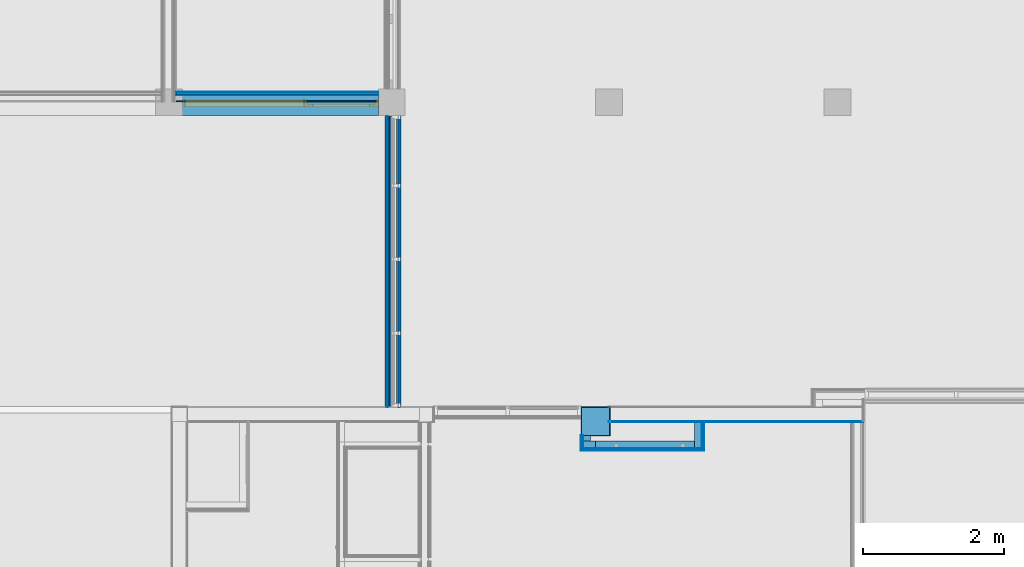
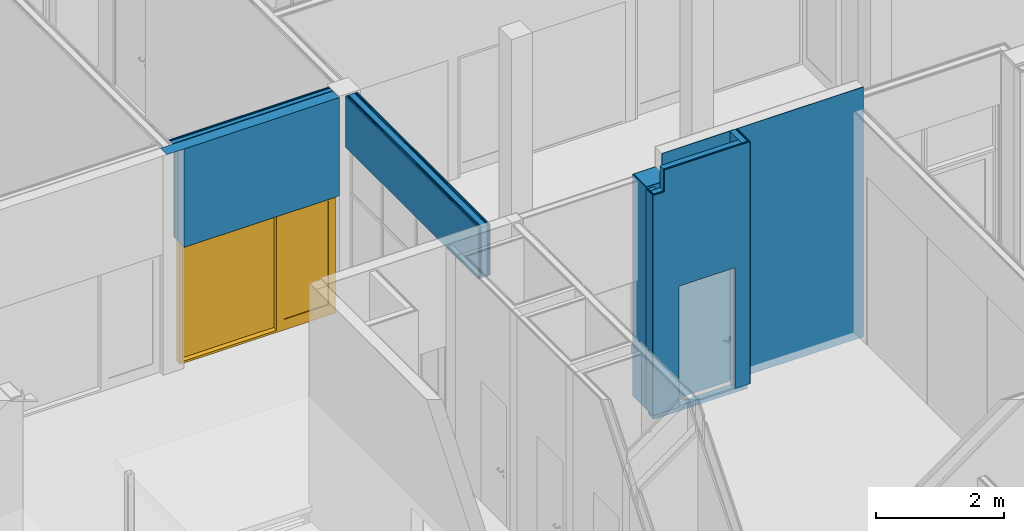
# One storey, part 210 of 260: 31 building element parts, 1 door, 2 openings, 7 elements without a shape of their own.
"""IFC2X3 building model written with IfcOpenShell, lengths in millimetres."""

from ifc_helpers import new_model, entity, si_unit, converted_unit, derived_unit, money_unit, direction, frame, origin_with_axes, place, context, subcontext, project, spatial, open_shell, faceted_brep, surface_model, material, type_object, element, fill, aggregate, save


model = new_model("IFC2X3")

# Units and contexts
model_context = context("Model", 3, precision=0.01, world=origin_with_axes(), true_north=direction((0.0, 1.0)))
body_context = subcontext(model_context, "Body", "Model", "MODEL_VIEW")
ifc_project = project(units=[si_unit("LENGTHUNIT", "METRE", prefix="MILLI"), si_unit("AREAUNIT", "SQUARE_METRE"), si_unit("VOLUMEUNIT", "CUBIC_METRE"), converted_unit("PLANEANGLEUNIT", "DEGREE", entity("IfcPlaneAngleMeasure", 0.0174532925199), si_unit("PLANEANGLEUNIT", "RADIAN"), dimensions=[0, 0, 0, 0, 0, 0, 0]), money_unit("EUR"), converted_unit("TIMEUNIT", "Year", entity("IfcTimeMeasure", 31556926.0), si_unit("TIMEUNIT", "SECOND"), dimensions=[0, 0, 1, 0, 0, 0, 0]), si_unit("MASSUNIT", "GRAM", prefix="KILO"), si_unit("THERMODYNAMICTEMPERATUREUNIT", "DEGREE_CELSIUS"), si_unit("LUMINOUSINTENSITYUNIT", "LUMEN"), si_unit("ENERGYUNIT", "JOULE", prefix="MEGA"), derived_unit("THERMALCONDUCTANCEUNIT", [(si_unit("POWERUNIT", "WATT"), 1), (si_unit("LENGTHUNIT", "METRE"), -1), (si_unit("THERMODYNAMICTEMPERATUREUNIT", "KELVIN"), -1)]), derived_unit("SPECIFICHEATCAPACITYUNIT", [(si_unit("ENERGYUNIT", "JOULE"), 1), (si_unit("MASSUNIT", "GRAM", prefix="KILO"), -1), (si_unit("THERMODYNAMICTEMPERATUREUNIT", "KELVIN"), -1)]), derived_unit("MASSDENSITYUNIT", [(si_unit("MASSUNIT", "GRAM", prefix="KILO"), 1), (si_unit("VOLUMEUNIT", "CUBIC_METRE"), -1)])], contexts=[model_context])

# Site, building, storey
site_placement = place(None, origin_with_axes())
site = spatial("IfcSite", under=ifc_project, at=site_placement, Name="Kolde pst 67a", CompositionType="ELEMENT")
building_placement = place(site_placement, origin_with_axes())
building = spatial("IfcBuilding", under=site, at=building_placement, Name="Riigigümnaasium", CompositionType="ELEMENT")
storey_placement = place(building_placement, origin_with_axes())
storey = spatial("IfcBuildingStorey", under=building, at=storey_placement, Name="1. korrus", CompositionType="ELEMENT", Elevation=0.0)

# Door
door_style = type_object("IfcDoorStyle", Name="Door with Sidelight on Side 2 25", ConstructionType="NOTDEFINED", OperationType="SINGLE_SWING_LEFT", ParameterTakesPrecedence=False, Sizeable=False)
wall_4_placement = place(storey_placement, frame((63760.0301526, 28589.999656, 0.0), z_axis=(0.0, 0.0, 1.0), x_axis=(1.0, 0.0, 0.0)))
opening_1_placement = place(wall_4_placement, frame((1705.00000252, 0.0, 0.0), z_axis=(0.0, 0.0, 1.0), x_axis=(1.0, 0.0, 0.0)))
door_placement = place(opening_1_placement, frame((1395.0, 0.0, 0.0), z_axis=(0.0, 0.0, 1.0), x_axis=(-1.0, 0.0, 0.0)))
door = element("IfcDoor", 1, at=door_placement, inside=storey, type_object=door_style, Name="Siseuks", ObjectType="DOOR", OverallHeight=2300.0, OverallWidth=2790.0, context=body_context, shape_type="SurfaceModel", body=[
    faceted_brep([(1056.0, -125.0, 2260.0), (1028.0, -125.0, 2260.0), (1028.0, -125.0, 2272.0), (28.0, -125.0, 2272.0), (28.0, -125.0, 2260.0), (0.0, -125.0, 2260.0), (0.0, -125.0, 2300.0), (2790.0, -125.0, 2300.0), (2790.0, -125.0, 2260.0), (2750.0, -125.0, 2260.0), (40.0, -240.0, 2260.0), (40.0, -165.0, 2260.0), (1028.0, -165.0, 2260.0), (1056.0, -240.0, 2260.0), (1016.0, -240.0, 2260.0), (1028.0, -165.0, 2272.0), (28.0, -165.0, 2272.0), (28.0, -165.0, 2260.0), (0.0, -240.0, 2260.0), (0.0, -240.0, 2300.0), (2790.0, -240.0, 2300.0), (2790.0, -240.0, 2260.0), (2750.0, -240.0, 2260.0)], [[[0, 1, 2, 3, 4, 5, 6, 7, 8, 9]], [[10, 11, 12, 1, 0, 13, 14]], [[15, 2, 1, 12]], [[16, 3, 2, 15]], [[17, 4, 3, 16]], [[5, 4, 17, 11, 10, 18]], [[18, 19, 6, 5]], [[19, 20, 7, 6]], [[20, 21, 8, 7]], [[21, 22, 9, 8]], [[22, 13, 0, 9]], [[12, 11, 17, 16, 15]], [[19, 18, 10, 14, 13, 22, 21, 20]]]),
    faceted_brep([(2750.0, -125.0, 0.0), (2790.0, -125.0, 0.0), (2790.0, -240.0, 0.0), (2750.0, -240.0, 0.0), (2790.0, -125.0, 2260.0), (2750.0, -125.0, 40.0), (2750.0, -125.0, 2260.0), (2790.0, -240.0, 2260.0), (2750.0, -240.0, 2260.0), (2750.0, -240.0, 40.0)], [[[0, 1, 2, 3]], [[4, 1, 0, 5, 6]], [[1, 4, 7, 2]], [[3, 2, 7, 8, 9]], [[5, 0, 3, 9]], [[6, 5, 9, 8]], [[4, 6, 8, 7]]]),
    faceted_brep([(40.0, -165.0, 2260.0), (28.0, -165.0, 2260.0), (28.0, -125.0, 2260.0), (0.0, -125.0, 2260.0), (0.0, -240.0, 2260.0), (40.0, -240.0, 2260.0), (40.0, -165.0, 0.0), (28.0, -165.0, 0.0), (28.0, -125.0, 0.0), (0.0, -125.0, 0.0), (0.0, -240.0, 0.0), (40.0, -240.0, 0.0)], [[[0, 1, 2, 3, 4, 5]], [[1, 0, 6, 7]], [[2, 1, 7, 8]], [[2, 8, 9, 3]], [[4, 3, 9, 10]], [[5, 4, 10, 11]], [[6, 0, 5, 11]], [[8, 7, 6, 11, 10, 9]]]),
    faceted_brep([(1016.0, -165.0, 0.0), (1016.0, -240.0, 0.0), (1016.0, -240.0, 2260.0), (1016.0, -165.0, 2260.0), (1028.0, -165.0, 0.0), (1028.0, -125.0, 0.0), (1056.0, -125.0, 0.0), (1056.0, -240.0, 0.0), (1056.0, -240.0, 40.0), (1056.0, -240.0, 2260.0), (1028.0, -165.0, 2260.0), (1056.0, -125.0, 2260.0), (1028.0, -125.0, 2260.0), (1056.0, -125.0, 40.0)], [[[0, 1, 2, 3]], [[4, 5, 6, 7, 1, 0]], [[7, 8, 9, 2, 1]], [[10, 3, 2, 9, 11, 12]], [[10, 4, 0, 3]], [[12, 5, 4, 10]], [[12, 11, 13, 6, 5]], [[6, 13, 8, 7]], [[13, 11, 9, 8]]]),
    faceted_brep([(2750.0, -125.0, 40.0), (2750.0, -240.0, 40.0), (2750.0, -240.0, 0.0), (2750.0, -125.0, 0.0), (1056.0, -125.0, 40.0), (1056.0, -240.0, 40.0), (1056.0, -240.0, 0.0), (1056.0, -125.0, 0.0)], [[[0, 1, 2, 3]], [[4, 5, 1, 0]], [[1, 5, 6, 2]], [[3, 2, 6, 7]], [[0, 3, 7, 4]], [[7, 6, 5, 4]]]),
    faceted_brep([(28.0, -125.0, 200.0), (128.0, -125.0, 200.0), (128.0, -165.0, 200.0), (28.0, -165.0, 200.0), (28.0, -125.0, 2172.0), (128.0, -125.0, 2172.0), (128.0, -165.0, 2172.0), (28.0, -165.0, 2172.0)], [[[0, 1, 2, 3]], [[0, 4, 5, 1]], [[1, 5, 6, 2]], [[3, 2, 6, 7]], [[4, 0, 3, 7]], [[5, 4, 7, 6]]]),
    faceted_brep([(1028.0, -125.0, 200.0), (1028.0, -125.0, 2172.0), (1028.0, -165.0, 2172.0), (1028.0, -165.0, 200.0), (928.0, -125.0, 200.0), (928.0, -125.0, 2172.0), (928.0, -165.0, 2172.0), (928.0, -165.0, 200.0)], [[[0, 1, 2, 3]], [[0, 4, 5, 1]], [[1, 5, 6, 2]], [[3, 2, 6, 7]], [[4, 0, 3, 7]], [[5, 4, 7, 6]]]),
    faceted_brep([(28.0, -125.0, 0.0), (1028.0, -125.0, 0.0), (1028.0, -165.0, 0.0), (28.0, -165.0, 0.0), (28.0, -125.0, 200.0), (128.0, -125.0, 200.0), (928.0, -125.0, 200.0), (1028.0, -125.0, 200.0), (1028.0, -165.0, 200.0), (928.0, -165.0, 200.0), (128.0, -165.0, 200.0), (28.0, -165.0, 200.0)], [[[0, 1, 2, 3]], [[0, 4, 5, 6, 7, 1]], [[1, 7, 8, 2]], [[3, 2, 8, 9, 10, 11]], [[4, 0, 3, 11]], [[5, 4, 11, 10]], [[6, 5, 10, 9]], [[7, 6, 9, 8]]]),
    faceted_brep([(28.0, -125.0, 2272.0), (28.0, -125.0, 2172.0), (28.0, -165.0, 2172.0), (28.0, -165.0, 2272.0), (1028.0, -125.0, 2272.0), (1028.0, -125.0, 2172.0), (928.0, -125.0, 2172.0), (128.0, -125.0, 2172.0), (128.0, -165.0, 2172.0), (928.0, -165.0, 2172.0), (1028.0, -165.0, 2172.0), (1028.0, -165.0, 2272.0)], [[[0, 1, 2, 3]], [[0, 4, 5, 6, 7, 1]], [[1, 7, 8, 2]], [[3, 2, 8, 9, 10, 11]], [[4, 0, 3, 11]], [[5, 4, 11, 10]], [[6, 5, 10, 9]], [[7, 6, 9, 8]]]),
    surface_model("IfcShellBasedSurfaceModel", [(128.0, -139.0, 200.0), (128.0, -139.0, 2172.0), (928.0, -139.0, 2172.0), (928.0, -139.0, 200.0)], [open_shell([[[0, 1, 2, 3]]])]),
    surface_model("IfcShellBasedSurfaceModel", [(128.0, -151.0, 200.0), (928.0, -151.0, 200.0), (928.0, -151.0, 2172.0), (128.0, -151.0, 2172.0)], [open_shell([[[0, 1, 2, 3]]])]),
    surface_model("IfcShellBasedSurfaceModel", [(2750.0, -216.0, 40.0), (1056.0, -216.0, 40.0), (1056.0, -216.0, 2260.0), (2750.0, -216.0, 2260.0)], [open_shell([[[0, 1, 2, 3]]])]),
    surface_model("IfcShellBasedSurfaceModel", [(2750.0, -228.0, 40.0), (2750.0, -228.0, 2260.0), (1056.0, -228.0, 2260.0), (1056.0, -228.0, 40.0)], [open_shell([[[0, 1, 2, 3]]])]),
])

# Wall, building element part
wall_type_1 = type_object("IfcWallType", Name="SS-RB-20/1_+2 krohv 55 dB 220", PredefinedType="NOTDEFINED")
wall_1_placement = place(storey_placement, frame((73759.99953, 24240.000066, -150.0), z_axis=(0.0, 0.0, 1.0), x_axis=(-1.0, 4.30399456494e-10, 0.0)))
wall_1 = element("IfcWall", 2, at=wall_1_placement, inside=storey, type_object=wall_type_1, Name="Sisesein")
ifc_material_1 = material(Name="_VIIMISTLUSKIHT - viimistlus vastavalt SA osale")
building_element_part_1_placement = place(wall_1_placement, origin_with_axes())
building_element_part_1 = element("IfcBuildingElementPart", 3, at=building_element_part_1_placement, material=ifc_material_1, Name="_VIIMISTLUSKIHT - viimistlus vastavalt SA osale", context=body_context, shape_type="Brep", body=[
    faceted_brep([(3620.00024174, 1.55804613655e-06, 4750.0), (3620.00024174, 10.000001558, 4750.0), (-4.30588897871e-09, 10.0, 4750.0), (0.0, 0.0, 4750.0), (3620.00024174, 1.55804613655e-06, 0.0), (3620.00024174, 10.000001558, 0.0), (-4.30588897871e-09, 10.0, 0.0), (0.0, 0.0, 0.0)], [[[0, 1, 2, 3]], [[0, 4, 5, 1]], [[1, 5, 6, 2]], [[3, 2, 6, 7]], [[4, 0, 3, 7]], [[5, 4, 7, 6]]]),
])
aggregate(wall_1, [building_element_part_1])

# Wall, building element parts
wall_type_2 = type_object("IfcWallType", Name="SS-PK-10/1_vill100+2dold 220", PredefinedType="NOTDEFINED")
wall_2_placement = place(storey_placement, frame((66959.5301551, 28579.999626, 3199.71344219), z_axis=(0.0, 0.0, 1.0), x_axis=(0.0, -1.0, 0.0)))
wall_2 = element("IfcWall", 4, at=wall_2_placement, inside=storey, type_object=wall_type_2, Name="Sisesein")
ifc_material_2 = material(Name="_VIIMISTLUSKIHT - Dold plaat vastavalt SA osale")
building_element_part_2_placement = place(wall_2_placement, origin_with_axes())
building_element_part_2 = element("IfcBuildingElementPart", 5, at=building_element_part_2_placement, material=ifc_material_2, Name="_VIIMISTLUSKIHT - Dold plaat vastavalt SA osale", context=body_context, shape_type="Brep", body=[
    faceted_brep([(0.0, 200.0, 970.286557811), (0.0, 220.0, 970.286557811), (0.0, 220.0, 0.0), (0.0, 200.0, 0.0), (4139.99965329, 220.0, 970.286557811), (4139.99965329, 200.0, 970.286557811), (4139.99959025, 220.0, 0.0), (4139.99959025, 200.0, 0.0)], [[[0, 1, 2, 3]], [[4, 1, 0, 5]], [[1, 4, 6, 2]], [[2, 6, 7, 3]], [[5, 0, 3, 7]], [[4, 5, 7, 6]]]),
])
ifc_material_3 = material(Name="_KARKASS - eriprofiilkinnitus vastavalt sisemisele plaatviimistlusele")
building_element_part_3_placement = place(wall_2_placement, origin_with_axes())
building_element_part_3 = element("IfcBuildingElementPart", 6, at=building_element_part_3_placement, material=ifc_material_3, Name="_KARKASS - eriprofiilkinnitus vastavalt sisemisele plaatviimistlusele", context=body_context, shape_type="Brep", body=[
    faceted_brep([(0.0, 190.0, 970.286557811), (0.0, 200.0, 970.286557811), (0.0, 200.0, 0.0), (0.0, 190.0, 0.0), (4139.99965329, 200.0, 970.286557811), (4139.99965329, 190.0, 970.286557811), (4139.99959025, 200.0, 0.0), (4139.99959025, 190.0, 0.0)], [[[0, 1, 2, 3]], [[4, 1, 0, 5]], [[1, 4, 6, 2]], [[2, 6, 7, 3]], [[5, 0, 3, 7]], [[4, 5, 7, 6]]]),
])
ifc_material_4 = material(Name="_PLAATMATERJAL - tuletõkkekipsplaat, Knauf Red GKF või samaväärne")
building_element_part_4_placement = place(wall_2_placement, origin_with_axes())
building_element_part_4 = element("IfcBuildingElementPart", 7, at=building_element_part_4_placement, material=ifc_material_4, Name="_PLAATMATERJAL - tuletõkkekipsplaat, Knauf Red GKF või samaväärne", context=body_context, shape_type="Brep", body=[
    faceted_brep([(0.0, 175.0, 970.286557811), (0.0, 190.0, 970.286557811), (0.0, 190.0, 0.0), (0.0, 175.0, 0.0), (4139.99965329, 190.0, 970.286557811), (4139.99965329, 175.0, 970.286557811), (4139.99959025, 190.0, 0.0), (4139.99959025, 175.0, 0.0)], [[[0, 1, 2, 3]], [[4, 1, 0, 5]], [[1, 4, 6, 2]], [[2, 6, 7, 3]], [[5, 0, 3, 7]], [[4, 5, 7, 6]]]),
])
building_element_part_5_placement = place(wall_2_placement, origin_with_axes())
building_element_part_5 = element("IfcBuildingElementPart", 8, at=building_element_part_5_placement, material=ifc_material_4, Name="_PLAATMATERJAL - tuletõkkekipsplaat, Knauf Red GKF või samaväärne", context=body_context, shape_type="Brep", body=[
    faceted_brep([(0.0, 160.0, 970.286557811), (0.0, 175.0, 970.286557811), (0.0, 175.0, 0.0), (0.0, 160.0, 0.0), (4139.99965329, 175.0, 970.286557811), (4139.99965329, 160.0, 970.286557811), (4139.99959025, 175.0, 0.0), (4139.99959025, 160.0, 0.0)], [[[0, 1, 2, 3]], [[4, 1, 0, 5]], [[1, 4, 6, 2]], [[2, 6, 7, 3]], [[5, 0, 3, 7]], [[4, 5, 7, 6]]]),
])
ifc_material_5 = material(Name="_KARKASS - puitpruss 100x50mm vertikaalne, samm 600mm, vahel mineraalvill, helineeldetegur αw = 1.0, ISOVER ACOUSTIC 100mm või samaväärne")
building_element_part_6_placement = place(wall_2_placement, origin_with_axes())
building_element_part_6 = element("IfcBuildingElementPart", 9, at=building_element_part_6_placement, material=ifc_material_5, Name="_KARKASS - puitpruss 100x50mm vertikaalne, samm 600mm, vahel mineraalvill, helineeldetegur αw = 1.0, ISOVER ACOUSTIC 100mm või samaväärne", context=body_context, shape_type="Brep", body=[
    faceted_brep([(0.0, 60.0, 970.286557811), (0.0, 160.0, 970.286557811), (0.0, 160.0, 0.0), (0.0, 60.0, 0.0), (4139.99965329, 160.0, 970.286557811), (4139.99965329, 60.0, 970.286557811), (4139.99959025, 160.0, 0.0), (4139.99959025, 60.0, 0.0)], [[[0, 1, 2, 3]], [[4, 1, 0, 5]], [[1, 4, 6, 2]], [[2, 6, 7, 3]], [[5, 0, 3, 7]], [[4, 5, 7, 6]]]),
])
building_element_part_7_placement = place(wall_2_placement, origin_with_axes())
building_element_part_7 = element("IfcBuildingElementPart", 10, at=building_element_part_7_placement, material=ifc_material_4, Name="_PLAATMATERJAL - tuletõkkekipsplaat, Knauf Red GKF või samaväärne", context=body_context, shape_type="Brep", body=[
    faceted_brep([(0.0, 45.0, 970.286557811), (0.0, 60.0, 970.286557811), (0.0, 60.0, 0.0), (0.0, 45.0, 0.0), (4139.99965329, 60.0, 970.286557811), (4139.99965329, 45.0, 970.286557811), (4139.99959025, 60.0, 0.0), (4139.99959025, 45.0, 0.0)], [[[0, 1, 2, 3]], [[4, 1, 0, 5]], [[1, 4, 6, 2]], [[2, 6, 7, 3]], [[5, 0, 3, 7]], [[4, 5, 7, 6]]]),
])
building_element_part_8_placement = place(wall_2_placement, origin_with_axes())
building_element_part_8 = element("IfcBuildingElementPart", 11, at=building_element_part_8_placement, material=ifc_material_4, Name="_PLAATMATERJAL - tuletõkkekipsplaat, Knauf Red GKF või samaväärne", context=body_context, shape_type="Brep", body=[
    faceted_brep([(0.0, 30.0, 970.286557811), (0.0, 45.0, 970.286557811), (0.0, 45.0, 0.0), (0.0, 30.0, 0.0), (4139.99965329, 45.0, 970.286557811), (4139.99965329, 30.0, 970.286557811), (4139.99959025, 45.0, 0.0), (4139.99959025, 30.0, 0.0)], [[[0, 1, 2, 3]], [[4, 1, 0, 5]], [[1, 4, 6, 2]], [[2, 6, 7, 3]], [[5, 0, 3, 7]], [[4, 5, 7, 6]]]),
])
building_element_part_9_placement = place(wall_2_placement, origin_with_axes())
building_element_part_9 = element("IfcBuildingElementPart", 12, at=building_element_part_9_placement, material=ifc_material_3, Name="_KARKASS - eriprofiilkinnitus vastavalt sisemisele plaatviimistlusele", context=body_context, shape_type="Brep", body=[
    faceted_brep([(0.0, 20.0, 970.286557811), (0.0, 30.0, 970.286557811), (0.0, 30.0, 0.0), (0.0, 20.0, 0.0), (4139.99965329, 30.0, 970.286557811), (4139.99965329, 20.0, 970.286557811), (4139.99959025, 30.0, 0.0), (4139.99959025, 20.0, 0.0)], [[[0, 1, 2, 3]], [[4, 1, 0, 5]], [[1, 4, 6, 2]], [[2, 6, 7, 3]], [[5, 0, 3, 7]], [[4, 5, 7, 6]]]),
])
building_element_part_10_placement = place(wall_2_placement, origin_with_axes())
building_element_part_10 = element("IfcBuildingElementPart", 13, at=building_element_part_10_placement, material=ifc_material_2, Name="_VIIMISTLUSKIHT - Dold plaat vastavalt SA osale", context=body_context, shape_type="Brep", body=[
    faceted_brep([(0.0, 0.0, 970.286557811), (0.0, 20.0, 970.286557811), (0.0, 20.0, 0.0), (0.0, 0.0, 0.0), (4139.99965329, 20.0, 970.286557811), (4139.99965329, 0.0, 970.286557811), (4139.99959025, 20.0, 0.0), (4139.99959025, 0.0, 0.0)], [[[0, 1, 2, 3]], [[4, 1, 0, 5]], [[1, 4, 6, 2]], [[2, 6, 7, 3]], [[5, 0, 3, 7]], [[4, 5, 7, 6]]]),
])
aggregate(wall_2, [building_element_part_2, building_element_part_3, building_element_part_4, building_element_part_5, building_element_part_6, building_element_part_7, building_element_part_8, building_element_part_9, building_element_part_10])

# Column, building element parts
column_type = type_object("IfcColumnType", Name="_KANDETARIND - raudbetoon C25/30 vastavalt EK osale 420 x 420", PredefinedType="COLUMN")
column_placement = place(storey_placement, frame((69949.9992883, 24239.9999727, 0.0), z_axis=(0.0, 0.0, 1.0), x_axis=(1.0, 0.0, 0.0)))
column = element("IfcColumn", 14, at=column_placement, inside=storey, type_object=column_type, Name="POST", ObjectType="COLUMN")
ifc_material_6 = material(Name="_VIIMISTLUSKIHT - puit")
building_element_part_11_placement = place(column_placement, origin_with_axes())
building_element_part_11 = element("IfcBuildingElementPart", 15, at=building_element_part_11_placement, material=ifc_material_6, Name="_VIIMISTLUSKIHT - puit", context=body_context, shape_type="Brep", body=[
    faceted_brep([(-210.0, 210.0, 0.0), (-210.0, -210.0, 0.0), (-210.0, -210.0, 4220.0), (-210.0, 210.0, 4220.0), (210.0, 210.0, 0.0), (210.0, -210.0, 0.0), (-199.999997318, -199.999997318, 0.0), (199.999997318, -199.999997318, 0.0), (199.999997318, 199.999997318, 0.0), (-199.999997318, 199.999997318, 0.0), (210.0, -210.0, 4220.0), (210.0, 210.0, 4220.0), (-199.999997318, -199.999997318, 4220.0), (-199.999997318, 199.999997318, 4220.0), (199.999997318, 199.999997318, 4220.0), (199.999997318, -199.999997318, 4220.0)], [[[0, 1, 2, 3]], [[0, 4, 5, 1], [6, 7, 8, 9]], [[1, 5, 10, 2]], [[3, 2, 10, 11], [12, 13, 14, 15]], [[4, 0, 3, 11]], [[5, 4, 11, 10]], [[7, 6, 12, 15]], [[8, 7, 15, 14]], [[9, 8, 14, 13]], [[6, 9, 13, 12]]]),
])
ifc_material_7 = material(Name="_KANDETARIND - raudbetoon C25/30 vastavalt EK osale")
building_element_part_12_placement = place(column_placement, origin_with_axes())
building_element_part_12 = element("IfcBuildingElementPart", 16, at=building_element_part_12_placement, material=ifc_material_7, Name="_KANDETARIND - raudbetoon C25/30 vastavalt EK osale", context=body_context, shape_type="Brep", body=[
    faceted_brep([(-200.0, -200.0, 0.0), (200.0, -200.0, 0.0), (200.0, -200.0, 4220.0), (-200.0, -200.0, 4220.0), (-200.0, 200.0, 0.0), (200.0, 200.0, 0.0), (200.0, 200.0, 4220.0), (-200.0, 200.0, 4220.0)], [[[0, 1, 2, 3]], [[0, 4, 5, 1]], [[1, 5, 6, 2]], [[3, 2, 6, 7]], [[4, 0, 3, 7]], [[5, 4, 7, 6]]]),
])
aggregate(column, [building_element_part_11, building_element_part_12])

# Wall, building element parts
wall_type_3 = type_object("IfcWallType", Name="SS-MK-10/6_šahti sein+krohv 40 dB 135", PredefinedType="NOTDEFINED")
wall_3_placement = place(storey_placement, frame((71494.9992883, 23825.0999933, -150.0), z_axis=(0.0, 0.0, 1.0), x_axis=(0.0, 1.0, 0.0)))
wall_3 = element("IfcWall", 17, at=wall_3_placement, inside=storey, type_object=wall_type_3, Name="Sisesein")
ifc_material_8 = material(Name="_KARKASS - metallkarkass CW 100/50/06 ja UW 100/40/06, samm 600, vahel mineraalvill, helineeldetegur αw = 1.0,  ISOVER ACOUSTIC 100mm või samaväärne")
building_element_part_13_placement = place(wall_3_placement, origin_with_axes())
building_element_part_13 = element("IfcBuildingElementPart", 18, at=building_element_part_13_placement, material=ifc_material_8, Name="_KARKASS - metallkarkass CW 100/50/06 ja UW 100/40/06, samm 600, vahel mineraalvill, helineeldetegur αw = 1.0,  ISOVER ACOUSTIC 100mm või samaväärne", context=body_context, shape_type="Brep", body=[
    faceted_brep([(35.0, 35.0, 49.9), (410.151951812, 35.0, 49.9), (410.151951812, 35.0, 4750.0), (35.0, 35.0, 4750.0), (410.151951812, 135.0, 49.9), (35.0, 135.0, 49.9), (410.151951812, 135.0, 4750.0), (35.0, 135.0, 4750.0)], [[[0, 1, 2, 3]], [[4, 1, 0, 5]], [[1, 4, 6, 2]], [[3, 2, 6, 7]], [[5, 0, 3, 7]], [[4, 5, 7, 6]]]),
])
ifc_material_9 = material(Name="_PLAATMATERJAL - kipsplaat veekindel")
building_element_part_14_placement = place(wall_3_placement, origin_with_axes())
building_element_part_14 = element("IfcBuildingElementPart", 19, at=building_element_part_14_placement, material=ifc_material_9, Name="_PLAATMATERJAL - kipsplaat veekindel", context=body_context, shape_type="Brep", body=[
    faceted_brep([(22.5, 22.5, 150.0), (410.151951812, 22.5, 150.0), (410.151951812, 22.5, 4750.0), (22.5, 22.5, 4750.0), (410.151951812, 35.0, 150.0), (22.5, 35.0, 150.0), (410.151951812, 35.0, 4750.0), (22.5, 35.0, 4750.0)], [[[0, 1, 2, 3]], [[4, 1, 0, 5]], [[1, 4, 6, 2]], [[3, 2, 6, 7]], [[5, 0, 3, 7]], [[4, 5, 7, 6]]]),
])
building_element_part_15_placement = place(wall_3_placement, origin_with_axes())
building_element_part_15 = element("IfcBuildingElementPart", 20, at=building_element_part_15_placement, material=ifc_material_9, Name="_PLAATMATERJAL - kipsplaat veekindel", context=body_context, shape_type="Brep", body=[
    faceted_brep([(10.0, 10.0, 150.0), (410.151951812, 10.0, 150.0), (410.151951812, 10.0, 4750.0), (10.0, 10.0, 4750.0), (410.151951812, 22.5, 150.0), (10.0, 22.5, 150.0), (410.151951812, 22.5, 4750.0), (10.0, 22.5, 4750.0)], [[[0, 1, 2, 3]], [[4, 1, 0, 5]], [[1, 4, 6, 2]], [[3, 2, 6, 7]], [[5, 0, 3, 7]], [[4, 5, 7, 6]]]),
])
building_element_part_16_placement = place(wall_3_placement, origin_with_axes())
building_element_part_16 = element("IfcBuildingElementPart", 21, at=building_element_part_16_placement, material=ifc_material_1, Name="_VIIMISTLUSKIHT - viimistlus vastavalt SA osale", context=body_context, shape_type="Brep", body=[
    faceted_brep([(0.0, 0.0, 150.0), (410.151951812, 0.0, 150.0), (410.151951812, 0.0, 4750.0), (0.0, 0.0, 4750.0), (410.151951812, 10.0, 150.0), (0.0, 10.0, 150.0), (410.151951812, 10.0, 4750.0), (0.0, 10.0, 4750.0)], [[[0, 1, 2, 3]], [[4, 1, 0, 5]], [[1, 4, 6, 2]], [[3, 2, 6, 7]], [[5, 0, 3, 7]], [[4, 5, 7, 6]]]),
])
aggregate(wall_3, [building_element_part_13, building_element_part_14, building_element_part_15, building_element_part_16])

# Wall, opening
wall_type_4 = type_object("IfcWallType", Name="SS-CLT-20/1_vill+krohv 340", PredefinedType="NOTDEFINED")
wall_4 = element("IfcWall", 22, at=wall_4_placement, inside=storey, type_object=wall_type_4, Name="Sisesein")
opening_1 = element("IfcOpeningElement", 23, at=opening_1_placement, cuts=wall_4, Name="Siseuks", context=body_context, shape_type="Brep", body=[
    faceted_brep([(1395.0, 240.0, 0.0), (1395.0, 240.0, 2300.0), (1395.0, -340.0, 2300.0), (1395.0, -340.0, 0.0), (-1395.0, 240.0, 0.0), (-1395.0, 240.0, 2300.0), (-1395.0, -340.0, 2300.0), (-1395.0, -340.0, 0.0)], [[[0, 1, 2, 3]], [[0, 4, 5, 1]], [[1, 5, 6, 2]], [[3, 2, 6, 7]], [[4, 0, 3, 7]], [[5, 4, 7, 6]]]),
    faceted_brep([(1395.0, 240.0, 2300.0), (1395.0, 240.0, 0.0), (1395.0, 680.0, 0.0), (1395.0, 680.0, 2300.0), (-1395.0, 240.0, 2300.0), (-1395.0, 240.0, 0.0), (-1395.0, 680.0, 0.0), (-1395.0, 680.0, 2300.0)], [[[0, 1, 2, 3]], [[0, 4, 5, 1]], [[1, 5, 6, 2]], [[3, 2, 6, 7]], [[4, 0, 3, 7]], [[5, 4, 7, 6]]]),
])

fill(opening_1, door)

# Building element part
building_element_part_17_placement = place(wall_4_placement, origin_with_axes())
building_element_part_17 = element("IfcBuildingElementPart", 24, at=building_element_part_17_placement, material=ifc_material_1, Name="_VIIMISTLUSKIHT - viimistlus vastavalt SA osale", context=body_context, shape_type="Brep", body=[
    faceted_brep([(310.000002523, 340.0, 4169.9), (220.0, 340.0, 4169.9), (220.0, 340.0, 4170.0), (3100.00000252, 340.0, 4170.0), (3100.00000252, 340.0, 2300.0), (310.000002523, 340.0, 2300.0), (310.000002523, 330.0, 4169.9), (220.0, 330.0, 4169.9), (220.0, 330.0, 4170.0), (3100.00000252, 330.0, 4170.0), (3100.00000252, 330.0, 2300.0), (310.000002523, 330.0, 2300.0)], [[[0, 1, 2, 3, 4, 5]], [[1, 0, 6, 7]], [[1, 7, 8, 2]], [[8, 9, 3, 2]], [[10, 4, 3, 9]], [[11, 5, 4, 10]], [[0, 5, 11, 6]], [[6, 11, 10, 9, 8, 7]]]),
])

building_element_part_18_placement = place(wall_4_placement, origin_with_axes())
building_element_part_18 = element("IfcBuildingElementPart", 25, at=building_element_part_18_placement, material=ifc_material_4, Name="_PLAATMATERJAL - tuletõkkekipsplaat, Knauf Red GKF või samaväärne", context=body_context, shape_type="Brep", body=[
    faceted_brep([(310.000002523, 330.0, 4169.9), (220.0, 330.0, 4169.9), (220.0, 330.0, 4170.0), (3100.00000252, 330.0, 4170.0), (3100.00000252, 330.0, 2300.0), (310.000002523, 330.0, 2300.0), (310.000002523, 315.0, 4169.9), (220.0, 315.0, 4169.9), (220.0, 315.0, 4170.0), (3100.00000252, 315.0, 4170.0), (3100.00000252, 315.0, 2300.0), (310.000002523, 315.0, 2300.0)], [[[0, 1, 2, 3, 4, 5]], [[1, 0, 6, 7]], [[1, 7, 8, 2]], [[8, 9, 3, 2]], [[10, 4, 3, 9]], [[11, 5, 4, 10]], [[0, 5, 11, 6]], [[6, 11, 10, 9, 8, 7]]]),
])

building_element_part_19_placement = place(wall_4_placement, origin_with_axes())
building_element_part_19 = element("IfcBuildingElementPart", 26, at=building_element_part_19_placement, material=ifc_material_4, Name="_PLAATMATERJAL - tuletõkkekipsplaat, Knauf Red GKF või samaväärne", context=body_context, shape_type="Brep", body=[
    faceted_brep([(310.000002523, 315.0, 4169.9), (220.0, 315.0, 4169.9), (220.0, 315.0, 4170.0), (3100.00000252, 315.0, 4170.0), (3100.00000252, 315.0, 2300.0), (310.000002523, 315.0, 2300.0), (310.000002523, 300.0, 4169.9), (220.0, 300.0, 4169.9), (220.0, 300.0, 4170.0), (3100.00000252, 300.0, 4170.0), (3100.00000252, 300.0, 2300.0), (310.000002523, 300.0, 2300.0)], [[[0, 1, 2, 3, 4, 5]], [[1, 0, 6, 7]], [[1, 7, 8, 2]], [[8, 9, 3, 2]], [[10, 4, 3, 9]], [[11, 5, 4, 10]], [[0, 5, 11, 6]], [[6, 11, 10, 9, 8, 7]]]),
])

ifc_material_10 = material(Name="_PLAATMATERJAL - OSB3 plaat")
building_element_part_20_placement = place(wall_4_placement, origin_with_axes())
building_element_part_20 = element("IfcBuildingElementPart", 27, at=building_element_part_20_placement, material=ifc_material_10, Name="_PLAATMATERJAL - OSB3 plaat", context=body_context, shape_type="Brep", body=[
    faceted_brep([(310.000002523, 300.0, 4169.9), (220.0, 300.0, 4169.9), (220.0, 300.0, 4170.0), (3100.00000252, 300.0, 4170.0), (3100.00000252, 300.0, 2300.0), (310.000002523, 300.0, 2300.0), (310.000002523, 290.0, 4169.9), (220.0, 290.0, 4169.9), (220.0, 290.0, 4170.0), (3100.00000252, 290.0, 4170.0), (3100.00000252, 290.0, 2300.0), (310.000002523, 290.0, 2300.0)], [[[0, 1, 2, 3, 4, 5]], [[1, 0, 6, 7]], [[1, 7, 8, 2]], [[8, 9, 3, 2]], [[10, 4, 3, 9]], [[11, 5, 4, 10]], [[0, 5, 11, 6]], [[6, 11, 10, 9, 8, 7]]]),
])

ifc_material_11 = material(Name="_KARKASS - metallkarkass CW 75/50/06 ja UW 75/40/06, samm 600, vahel mineraalvill, helineeldetegur αw = 1.0,  ISOVER ACOUSTIC 75mm või samaväärne")
building_element_part_21_placement = place(wall_4_placement, origin_with_axes())
building_element_part_21 = element("IfcBuildingElementPart", 28, at=building_element_part_21_placement, material=ifc_material_11, Name="_KARKASS - metallkarkass CW 75/50/06 ja UW 75/40/06, samm 600, vahel mineraalvill, helineeldetegur αw = 1.0,  ISOVER ACOUSTIC 75mm või samaväärne", context=body_context, shape_type="Brep", body=[
    faceted_brep([(310.000002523, 290.0, 4169.9), (220.0, 290.0, 4169.9), (220.0, 290.0, 4170.0), (3100.00000252, 290.0, 4170.0), (3100.00000252, 290.0, 2300.0), (310.000002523, 290.0, 2300.0), (310.000002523, 215.0, 4169.9), (220.0, 215.0, 4169.9), (220.0, 215.0, 4170.0), (3100.00000252, 215.0, 4170.0), (3100.00000252, 240.0, 2300.0), (3100.00000252, 215.0, 2300.0), (310.000002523, 240.0, 2300.0), (310.000002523, 215.0, 2300.0)], [[[0, 1, 2, 3, 4, 5]], [[1, 0, 6, 7]], [[1, 7, 8, 2]], [[8, 9, 3, 2]], [[10, 4, 3, 9, 11]], [[12, 5, 4, 10]], [[0, 5, 12, 13, 6]], [[6, 13, 11, 9, 8, 7]], [[13, 12, 10, 11]]]),
])

ifc_material_12 = material(Name="_ÕHKVAHE")
building_element_part_22_placement = place(wall_4_placement, origin_with_axes())
building_element_part_22 = element("IfcBuildingElementPart", 29, at=building_element_part_22_placement, material=ifc_material_12, Name="_ÕHKVAHE", context=body_context, shape_type="Brep", body=[
    faceted_brep([(310.000002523, 215.0, 4169.9), (220.0, 215.0, 4169.9), (220.0, 215.0, 4170.0), (3100.00000252, 215.0, 4170.0), (3100.00000252, 215.0, 2300.0), (310.000002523, 215.0, 2300.0), (310.000002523, 200.0, 4169.9), (220.0, 200.0, 4169.9), (220.0, 200.0, 4170.0), (3100.00000252, 200.0, 4170.0), (3100.00000252, 200.0, 2300.0), (310.000002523, 200.0, 2300.0)], [[[0, 1, 2, 3, 4, 5]], [[1, 0, 6, 7]], [[1, 7, 8, 2]], [[8, 9, 3, 2]], [[10, 4, 3, 9]], [[11, 5, 4, 10]], [[0, 5, 11, 6]], [[6, 11, 10, 9, 8, 7]]]),
])

ifc_material_13 = material(Name="_KANDETARIND - CLT ristkihtliimpuit vastavalt EK osale, CLT paigaldusvuugid teibitakse ROTHOBLAAS teibiga")
building_element_part_23_placement = place(wall_4_placement, origin_with_axes())
building_element_part_23 = element("IfcBuildingElementPart", 30, at=building_element_part_23_placement, material=ifc_material_13, Name="_KANDETARIND - CLT ristkihtliimpuit vastavalt EK osale, CLT paigaldusvuugid teibitakse ROTHOBLAAS teibiga", context=body_context, shape_type="Brep", body=[
    faceted_brep([(310.000002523, 200.0, 4169.9), (0.0, 200.0, 4169.9), (0.0, 200.0, 4170.0), (3100.00000252, 200.0, 4170.0), (3100.00000252, 200.0, 2300.0), (310.000002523, 200.0, 2300.0), (310.000002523, 4.37200604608e-05, 4169.9), (0.0, 4.37200604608e-05, 4169.9), (0.0, 0.0, 4170.0), (3100.00000252, 3.2761448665e-05, 4170.0), (3100.00000252, 3.2761448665e-05, 2300.0), (310.000002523, 4.37200604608e-05, 2300.0)], [[[0, 1, 2, 3, 4, 5]], [[1, 0, 6, 7]], [[1, 7, 8, 2]], [[8, 9, 3, 2]], [[10, 4, 3, 9]], [[11, 5, 4, 10]], [[0, 5, 11, 6]], [[6, 11, 10, 9, 8, 7]]]),
])

aggregate(wall_4, [building_element_part_17, building_element_part_18, building_element_part_19, building_element_part_20, building_element_part_21, building_element_part_22, building_element_part_23])

# Wall, opening, building element parts
wall_5_placement = place(storey_placement, frame((69739.9992883, 23825.0999933, -150.0), z_axis=(0.0, 0.0, 1.0), x_axis=(1.0, 0.0, 0.0)))
wall_5 = element("IfcWall", 31, at=wall_5_placement, inside=storey, type_object=wall_type_3, Name="Sisesein")
opening_2_placement = place(wall_5_placement, frame((974.960747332, 0.0, 150.0), z_axis=(0.0, 0.0, 1.0), x_axis=(1.0, 0.0, 0.0)))
element("IfcOpeningElement", 32, at=opening_2_placement, cuts=wall_5, Name="Siseuks", context=body_context, shape_type="Brep", body=[
    faceted_brep([(-500.0, 135.0, 2300.0), (-500.0, 135.0, 0.0), (-500.0, -270.0, 0.0), (-500.0, -270.0, 2300.0), (500.0, 135.0, 2300.0), (500.0, 135.0, 0.0), (500.0, -270.0, 0.0), (500.0, -270.0, 2300.0)], [[[0, 1, 2, 3]], [[0, 4, 5, 1]], [[1, 5, 6, 2]], [[3, 2, 6, 7]], [[4, 0, 3, 7]], [[5, 4, 7, 6]]]),
])
building_element_part_24_placement = place(wall_5_placement, origin_with_axes())
building_element_part_24 = element("IfcBuildingElementPart", 33, at=building_element_part_24_placement, material=ifc_material_8, Name="_KARKASS - metallkarkass CW 100/50/06 ja UW 100/40/06, samm 600, vahel mineraalvill, helineeldetegur αw = 1.0,  ISOVER ACOUSTIC 100mm või samaväärne", context=body_context, shape_type="Brep", body=[
    faceted_brep([(210.0, 35.0, 4750.0), (210.0, 35.0, 4335.0), (35.0, 35.0, 4335.0), (35.0, 35.0, 49.9), (1620.0, 35.0, 49.9), (1620.0, 35.0, 4750.0), (474.960747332, 35.0, 150.0), (474.960747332, 35.0, 2450.0), (1474.96074733, 35.0, 2450.0), (1474.96074733, 35.0, 150.0), (210.0, 135.0, 4335.0), (210.0, 135.0, 4750.0), (35.0, 135.0, 4335.0), (35.0, 135.0, 49.9), (1620.0, 135.0, 49.9), (1620.0, 135.0, 4750.0), (474.960747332, 135.0, 150.0), (474.960747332, 135.0, 2450.0), (1474.96074733, 135.0, 2450.0), (1474.96074733, 135.0, 150.0)], [[[0, 1, 2, 3, 4, 5], [6, 7, 8, 9]], [[10, 1, 0, 11]], [[12, 2, 1, 10]], [[3, 2, 12, 13]], [[14, 4, 3, 13]], [[14, 15, 5, 4]], [[0, 5, 15, 11]], [[16, 17, 7, 6]], [[17, 18, 8, 7]], [[18, 19, 9, 8]], [[19, 16, 6, 9]], [[10, 11, 15, 14, 13, 12], [16, 19, 18, 17]]]),
])
building_element_part_25_placement = place(wall_5_placement, origin_with_axes())
building_element_part_25 = element("IfcBuildingElementPart", 34, at=building_element_part_25_placement, material=ifc_material_9, Name="_PLAATMATERJAL - kipsplaat veekindel", context=body_context, shape_type="Brep", body=[
    faceted_brep([(474.960747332, 35.0, 2450.0), (474.960747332, 35.0, 150.0), (22.5, 35.0, 150.0), (22.5, 35.0, 4335.0), (210.0, 35.0, 4335.0), (210.0, 35.0, 4750.0), (1720.0, 35.0, 4750.0), (1720.0, 35.0, 150.0), (1474.96074733, 35.0, 150.0), (1474.96074733, 35.0, 2450.0), (474.960747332, 22.5, 2450.0), (474.960747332, 22.5, 150.0), (22.5, 22.5, 150.0), (22.5, 22.5, 4335.0), (210.0, 22.5, 4335.0), (210.0, 22.5, 4750.0), (1720.0, 22.5, 4750.0), (1720.0, 22.5, 150.0), (1474.96074733, 22.5, 150.0), (1474.96074733, 22.5, 2450.0)], [[[0, 1, 2, 3, 4, 5, 6, 7, 8, 9]], [[1, 0, 10, 11]], [[1, 11, 12, 2]], [[12, 13, 3, 2]], [[3, 13, 14, 4]], [[4, 14, 15, 5]], [[15, 16, 6, 5]], [[7, 6, 16, 17]], [[18, 8, 7, 17]], [[9, 8, 18, 19]], [[0, 9, 19, 10]], [[19, 18, 17, 16, 15, 14, 13, 12, 11, 10]]]),
])
building_element_part_26_placement = place(wall_5_placement, origin_with_axes())
building_element_part_26 = element("IfcBuildingElementPart", 35, at=building_element_part_26_placement, material=ifc_material_9, Name="_PLAATMATERJAL - kipsplaat veekindel", context=body_context, shape_type="Brep", body=[
    faceted_brep([(474.960747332, 22.5, 2450.0), (474.960747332, 22.5, 150.0), (10.0, 22.5, 150.0), (10.0, 22.5, 4335.0), (210.0, 22.5, 4335.0), (210.0, 22.5, 4750.0), (1732.5, 22.5, 4750.0), (1732.5, 22.5, 150.0), (1474.96074733, 22.5, 150.0), (1474.96074733, 22.5, 2450.0), (474.960747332, 10.0, 2450.0), (474.960747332, 10.0, 150.0), (10.0, 10.0, 150.0), (10.0, 10.0, 4335.0), (210.0, 10.0, 4335.0), (210.0, 10.0, 4750.0), (1732.5, 10.0, 4750.0), (1732.5, 10.0, 150.0), (1474.96074733, 10.0, 150.0), (1474.96074733, 10.0, 2450.0)], [[[0, 1, 2, 3, 4, 5, 6, 7, 8, 9]], [[1, 0, 10, 11]], [[1, 11, 12, 2]], [[12, 13, 3, 2]], [[3, 13, 14, 4]], [[4, 14, 15, 5]], [[15, 16, 6, 5]], [[7, 6, 16, 17]], [[18, 8, 7, 17]], [[9, 8, 18, 19]], [[0, 9, 19, 10]], [[19, 18, 17, 16, 15, 14, 13, 12, 11, 10]]]),
])
building_element_part_27_placement = place(wall_5_placement, origin_with_axes())
building_element_part_27 = element("IfcBuildingElementPart", 36, at=building_element_part_27_placement, material=ifc_material_1, Name="_VIIMISTLUSKIHT - viimistlus vastavalt SA osale", context=body_context, shape_type="Brep", body=[
    faceted_brep([(474.960747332, 10.0, 2450.0), (474.960747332, 10.0, 150.0), (0.0, 10.0, 150.0), (0.0, 10.0, 4335.0), (210.0, 10.0, 4335.0), (210.0, 10.0, 4750.0), (1745.0, 10.0, 4750.0), (1745.0, 10.0, 150.0), (1474.96074733, 10.0, 150.0), (1474.96074733, 10.0, 2450.0), (474.960747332, 0.0, 2450.0), (474.960747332, 0.0, 150.0), (0.0, 0.0, 150.0), (0.0, 0.0, 4335.0), (210.0, 0.0, 4335.0), (210.0, 0.0, 4750.0), (1745.0, 0.0, 4750.0), (1745.0, 0.0, 150.0), (1474.96074733, 0.0, 150.0), (1474.96074733, 0.0, 2450.0)], [[[0, 1, 2, 3, 4, 5, 6, 7, 8, 9]], [[1, 0, 10, 11]], [[1, 11, 12, 2]], [[12, 13, 3, 2]], [[3, 13, 14, 4]], [[4, 14, 15, 5]], [[15, 16, 6, 5]], [[7, 6, 16, 17]], [[18, 8, 7, 17]], [[9, 8, 18, 19]], [[0, 9, 19, 10]], [[19, 18, 17, 16, 15, 14, 13, 12, 11, 10]]]),
])
aggregate(wall_5, [building_element_part_24, building_element_part_25, building_element_part_26, building_element_part_27])

# Wall, building element parts
wall_6_placement = place(storey_placement, frame((69739.9992883, 23825.0999933, -150.0), z_axis=(0.0, 0.0, 1.0), x_axis=(0.0, 1.0, 0.0)))
wall_6 = element("IfcWall", 37, at=wall_6_placement, inside=storey, type_object=wall_type_3, Name="Sisesein")
building_element_part_28_placement = place(wall_6_placement, origin_with_axes())
building_element_part_28 = element("IfcBuildingElementPart", 38, at=building_element_part_28_placement, material=ifc_material_1, Name="_VIIMISTLUSKIHT - viimistlus vastavalt SA osale", context=body_context, shape_type="Brep", body=[
    faceted_brep([(10.0, -10.0, 150.0), (214.899979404, -10.0, 150.0), (214.899979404, -10.0, 4335.0), (10.0, -10.0, 4335.0), (214.899979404, 0.0, 150.0), (10.0, 0.0, 150.0), (214.899979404, 0.0, 4335.0), (10.0, 0.0, 4335.0)], [[[0, 1, 2, 3]], [[4, 1, 0, 5]], [[1, 4, 6, 2]], [[3, 2, 6, 7]], [[5, 0, 3, 7]], [[4, 5, 7, 6]]]),
])
building_element_part_29_placement = place(wall_6_placement, origin_with_axes())
building_element_part_29 = element("IfcBuildingElementPart", 39, at=building_element_part_29_placement, material=ifc_material_9, Name="_PLAATMATERJAL - kipsplaat veekindel", context=body_context, shape_type="Brep", body=[
    faceted_brep([(22.5, -22.5, 150.0), (214.899979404, -22.5, 150.0), (214.899979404, -22.5, 4335.0), (22.5, -22.5, 4335.0), (214.899979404, -10.0, 150.0), (22.5, -10.0, 150.0), (214.899979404, -10.0, 4335.0), (22.5, -10.0, 4335.0)], [[[0, 1, 2, 3]], [[4, 1, 0, 5]], [[1, 4, 6, 2]], [[3, 2, 6, 7]], [[5, 0, 3, 7]], [[4, 5, 7, 6]]]),
])
building_element_part_30_placement = place(wall_6_placement, origin_with_axes())
building_element_part_30 = element("IfcBuildingElementPart", 40, at=building_element_part_30_placement, material=ifc_material_9, Name="_PLAATMATERJAL - kipsplaat veekindel", context=body_context, shape_type="Brep", body=[
    faceted_brep([(35.0, -35.0, 150.0), (214.899979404, -35.0, 150.0), (214.899979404, -35.0, 4335.0), (35.0, -35.0, 4335.0), (214.899979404, -22.5, 150.0), (35.0, -22.5, 150.0), (214.899979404, -22.5, 4335.0), (35.0, -22.5, 4335.0)], [[[0, 1, 2, 3]], [[4, 1, 0, 5]], [[1, 4, 6, 2]], [[3, 2, 6, 7]], [[5, 0, 3, 7]], [[4, 5, 7, 6]]]),
])
building_element_part_31_placement = place(wall_6_placement, origin_with_axes())
building_element_part_31 = element("IfcBuildingElementPart", 41, at=building_element_part_31_placement, material=ifc_material_8, Name="_KARKASS - metallkarkass CW 100/50/06 ja UW 100/40/06, samm 600, vahel mineraalvill, helineeldetegur αw = 1.0,  ISOVER ACOUSTIC 100mm või samaväärne", context=body_context, shape_type="Brep", body=[
    faceted_brep([(135.0, -135.0, 49.9), (214.899979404, -135.0, 49.9), (214.899979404, -135.0, 4335.0), (135.0, -135.0, 4335.0), (214.899979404, -35.0, 49.9), (135.0, -35.0, 49.9), (214.899979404, -35.0, 4335.0), (135.0, -35.0, 4335.0)], [[[0, 1, 2, 3]], [[4, 1, 0, 5]], [[1, 4, 6, 2]], [[3, 2, 6, 7]], [[5, 0, 3, 7]], [[4, 5, 7, 6]]]),
])
aggregate(wall_6, [building_element_part_28, building_element_part_29, building_element_part_30, building_element_part_31])

save(model, "model.ifc")
